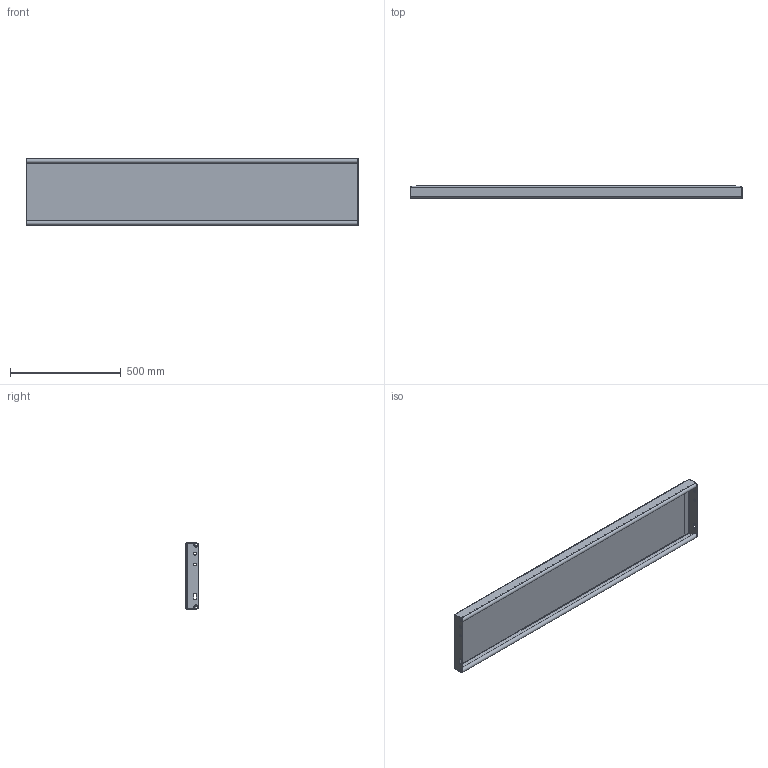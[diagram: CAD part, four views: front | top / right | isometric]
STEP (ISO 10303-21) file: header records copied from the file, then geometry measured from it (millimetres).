
FILE_DESCRIPTION (( 'STEP AP214' ), '1' );
FILE_NAME ('OPTIMO-Tread-Achil-O2-1500x300x57x2-st240-F100580100_plain.STEP', '2021-03-18T12:55:05', ( '' ), ( '' ), 'SwSTEP 2.0', 'SolidWorks 2021', '' );
FILE_SCHEMA (( 'AUTOMOTIVE_DESIGN' ));
Length unit declared in the file: millimetre
Products named in the file (1): OPTIMO-Tread-Achil-O2-1500x300x57x2-st240-F100580100_plain
Bounding box: 1500 x 57 x 300 mm (x, y, z)
Volume: 2753104.7 mm3; surface area: 1511272.3 mm2
Topology: 1 solids, 1 shells, 252 faces, 652 edges, 420 vertices
Faces by surface type: plane 173, cylinder 40, bspline 39
Entity records: 10072 total; most frequent: CARTESIAN_POINT 4116, ORIENTED_EDGE 1304, DIRECTION 1050, EDGE_CURVE 652, VECTOR 494, LINE 494, VERTEX_POINT 420, EDGE_LOOP 282
